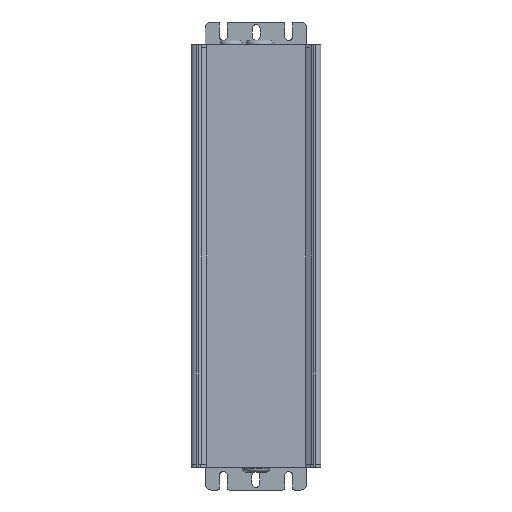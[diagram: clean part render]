
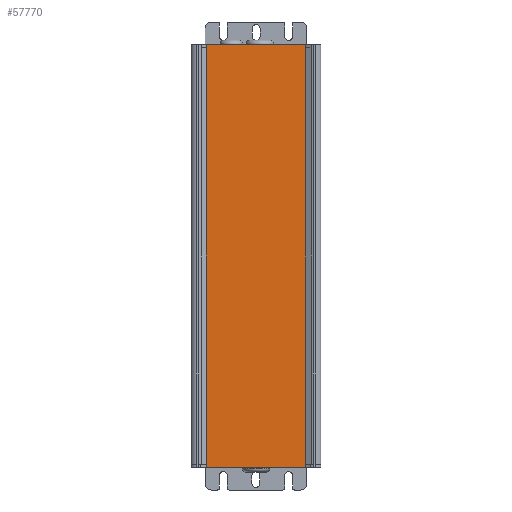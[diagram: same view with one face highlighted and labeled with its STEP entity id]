
A CAD part, left-side view. The second image highlights one B-rep face of the part: STEP entity #57770.
In plain terms, the highlighted planar face has unit normal (-1, 0, 0).
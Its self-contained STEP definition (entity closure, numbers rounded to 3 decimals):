
#1920=CARTESIAN_POINT('',(1767.992,-2398.164,-15.8));
#1930=VERTEX_POINT('',#1920);
#1960=CARTESIAN_POINT('',(1767.992,0.,-15.8));
#1970=DIRECTION('',(0.,1.,0.));
#1980=VECTOR('',#1970,1.);
#1990=LINE('',#1960,#1980);
#2000=CARTESIAN_POINT('',(1767.992,-2398.114,-15.8));
#2010=VERTEX_POINT('',#2000);
#2020=EDGE_CURVE('',#1930,#2010,#1990,.T.);
#20150=CARTESIAN_POINT('',(1767.992,-2398.164,
202.));
#20160=VERTEX_POINT('',#20150);
#20190=CARTESIAN_POINT('',(1767.992,-2398.164,0.));
#20200=DIRECTION('',(0.,0.,1.));
#20210=VECTOR('',#20200,1.);
#20220=LINE('',#20190,#20210);
#20230=EDGE_CURVE('',#1930,#20160,#20220,.T.);
#20760=CARTESIAN_POINT('',(1767.992,-2450.164,0.));
#20770=DIRECTION('',(0.,0.,1.));
#20780=VECTOR('',#20770,1.);
#20790=LINE('',#20760,#20780);
#20800=CARTESIAN_POINT('',(1767.992,-2450.164,-15.8));
#20810=VERTEX_POINT('',#20800);
#20820=CARTESIAN_POINT('',(1767.992,-2450.164,202.));
#20830=VERTEX_POINT('',#20820);
#20840=EDGE_CURVE('',#20810,#20830,#20790,.T.);
#50290=CARTESIAN_POINT('',(1767.992,-2398.114,
-17.4));
#50300=VERTEX_POINT('',#50290);
#50330=CARTESIAN_POINT('',(1767.992,-4401.398,-17.4));
#50340=DIRECTION('',(0.,1.,0.));
#50350=VECTOR('',#50340,1.);
#50360=LINE('',#50330,#50350);
#50370=CARTESIAN_POINT('',(1767.992,-2450.114,
-17.4));
#50380=VERTEX_POINT('',#50370);
#50390=EDGE_CURVE('',#50380,#50300,#50360,.T.);
#56820=CARTESIAN_POINT('',(1767.992,-2398.114,
-17.56));
#56830=DIRECTION('',(0.,0.,1.));
#56840=VECTOR('',#56830,1.);
#56850=LINE('',#56820,#56840);
#56860=EDGE_CURVE('',#50300,#2010,#56850,.T.);
#57290=CARTESIAN_POINT('',(1767.992,-2398.114,
-17.56));
#57300=DIRECTION('',(1.,0.,0.));
#57310=DIRECTION('',(0.,-1.,0.));
#57320=AXIS2_PLACEMENT_3D('',#57290,#57300,#57310);
#57330=PLANE('',#57320);
#57340=ORIENTED_EDGE('',*,*,#20230,.F.);
#57350=CARTESIAN_POINT('',(1767.992,-2398.164,
203.76));
#57360=DIRECTION('',(0.,0.,-1.));
#57370=VECTOR('',#57360,1.);
#57380=LINE('',#57350,#57370);
#57390=CARTESIAN_POINT('',(1767.992,-2398.164,
203.6));
#57400=VERTEX_POINT('',#57390);
#57410=EDGE_CURVE('',#57400,#20160,#57380,.T.);
#57420=ORIENTED_EDGE('',*,*,#57410,.T.);
#57430=CARTESIAN_POINT('',(1767.992,-446.879,
203.6));
#57440=DIRECTION('',(0.,-1.,0.));
#57450=VECTOR('',#57440,1.);
#57460=LINE('',#57430,#57450);
#57470=CARTESIAN_POINT('',(1767.992,-2450.164,
203.6));
#57480=VERTEX_POINT('',#57470);
#57490=EDGE_CURVE('',#57400,#57480,#57460,.T.);
#57500=ORIENTED_EDGE('',*,*,#57490,.F.);
#57510=CARTESIAN_POINT('',(1767.992,-2450.164,
203.76));
#57520=DIRECTION('',(0.,0.,-1.));
#57530=VECTOR('',#57520,1.);
#57540=LINE('',#57510,#57530);
#57550=EDGE_CURVE('',#57480,#20830,#57540,.T.);
#57560=ORIENTED_EDGE('',*,*,#57550,.F.);
#57570=ORIENTED_EDGE('',*,*,#20840,.T.);
#57580=CARTESIAN_POINT('',(1767.992,0.,-15.8));
#57590=DIRECTION('',(0.,1.,0.));
#57600=VECTOR('',#57590,1.);
#57610=LINE('',#57580,#57600);
#57620=CARTESIAN_POINT('',(1767.992,-2450.114,-15.8));
#57630=VERTEX_POINT('',#57620);
#57640=EDGE_CURVE('',#20810,#57630,#57610,.T.);
#57650=ORIENTED_EDGE('',*,*,#57640,.F.);
#57660=CARTESIAN_POINT('',(1767.992,-2450.114,
-17.56));
#57670=DIRECTION('',(0.,0.,1.));
#57680=VECTOR('',#57670,1.);
#57690=LINE('',#57660,#57680);
#57700=EDGE_CURVE('',#50380,#57630,#57690,.T.);
#57710=ORIENTED_EDGE('',*,*,#57700,.T.);
#57720=ORIENTED_EDGE('',*,*,#50390,.F.);
#57730=ORIENTED_EDGE('',*,*,#56860,.F.);
#57740=ORIENTED_EDGE('',*,*,#2020,.T.);
#57750=EDGE_LOOP('',(#57740,#57730,#57720,#57710,#57650,#57570,#57560,
#57500,#57420,#57340));
#57760=FACE_OUTER_BOUND('',#57750,.T.);
#57770=ADVANCED_FACE('',(#57760),#57330,.F.);
